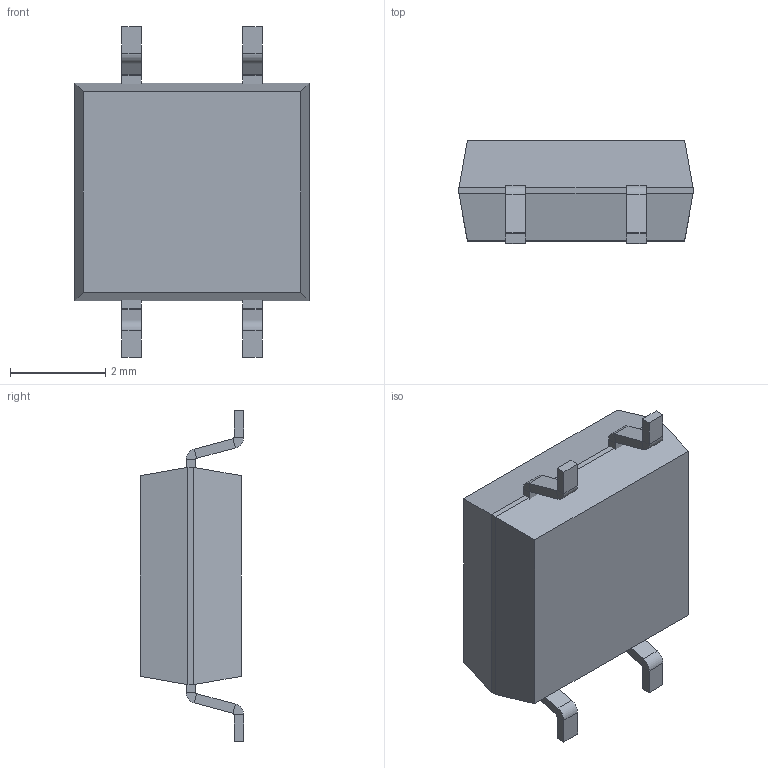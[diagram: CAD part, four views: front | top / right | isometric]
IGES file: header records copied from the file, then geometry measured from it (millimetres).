
Start section: SolidWorks IGES file using analytic representation for surfaces
Global section: file name: C:\Users\David\Dropbox\Jose Espina\Component Packages\SOP-4\SOP-4V2.IGS; native system: SolidWorks 2015; preprocessor: SolidWorks 2015; author: David; date: 151212.142113; units: millimetre
Bounding box: 4.92 x 2.17 x 6.95 mm (x, y, z)
Volume: 47.2 mm3; surface area: 113.9 mm2
Topology: 2 solids, 2 shells, 95 faces, 214 edges, 108 vertices
Faces by surface type: plane 77, revolution 18
